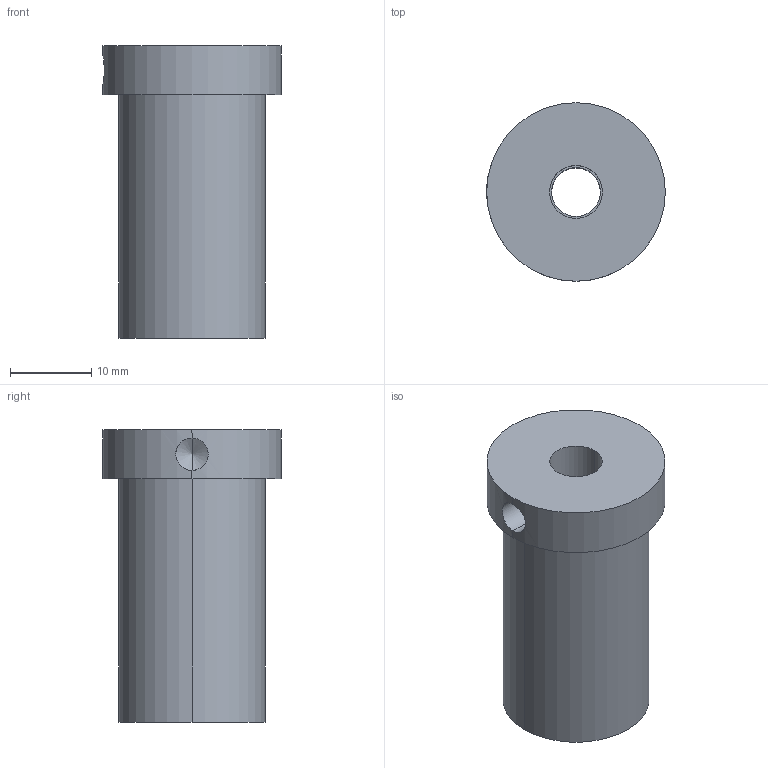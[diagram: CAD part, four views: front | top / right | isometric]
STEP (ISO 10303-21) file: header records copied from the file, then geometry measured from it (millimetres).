
FILE_DESCRIPTION (( 'STEP AP214' ), '1' );
FILE_NAME ('BR53-18x36.STEP', '2020-01-30T11:31:55', ( 'August' ), ( '' ), 'SwSTEP 2.0', 'SolidWorks 2018', '' );
FILE_SCHEMA (( 'AUTOMOTIVE_DESIGN' ));
Length unit declared in the file: millimetre
Products named in the file (1): BR53-18x36
Bounding box: 22 x 22 x 36 mm (x, y, z)
Volume: 8761.2 mm3; surface area: 3584.1 mm2
Topology: 1 solids, 1 shells, 21 faces, 45 edges, 27 vertices
Faces by surface type: cylinder 12, plane 5, cone 4
Entity records: 651 total; most frequent: CARTESIAN_POINT 148, DIRECTION 109, ORIENTED_EDGE 86, AXIS2_PLACEMENT_3D 46, EDGE_CURVE 43, VERTEX_POINT 27, EDGE_LOOP 26, CIRCLE 24
